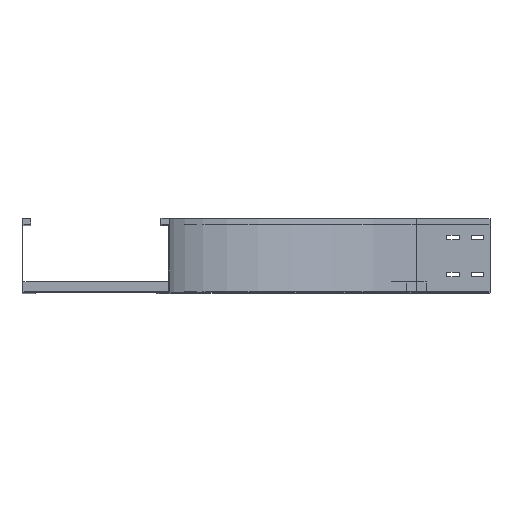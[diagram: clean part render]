
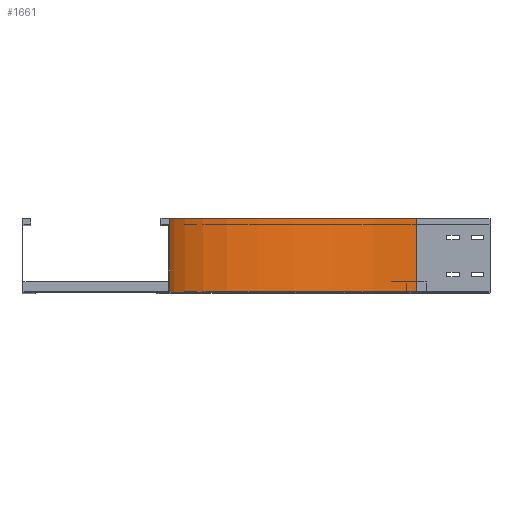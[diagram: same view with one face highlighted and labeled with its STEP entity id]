
A CAD part, top view. The second image highlights one B-rep face of the part: STEP entity #1661.
In plain terms, the highlighted cylindrical face has radius 500 mm (diameter 1000 mm), a partial arc.
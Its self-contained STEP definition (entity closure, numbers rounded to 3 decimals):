
#48 = CARTESIAN_POINT ( 'NONE',  ( 500., 0., -650. ) ) ;
#162 = CARTESIAN_POINT ( 'NONE',  ( 500., 0., -150. ) ) ;
#193 = DIRECTION ( 'NONE',  ( 0., -1., 0. ) ) ;
#215 = DIRECTION ( 'NONE',  ( 0., 0., -1. ) ) ;
#427 = EDGE_LOOP ( 'NONE', ( #590, #3980, #3678, #2439 ) ) ;
#453 = CYLINDRICAL_SURFACE ( 'NONE', #1134, 500. ) ;
#570 = CARTESIAN_POINT ( 'NONE',  ( 0., 150., -150. ) ) ;
#590 = ORIENTED_EDGE ( 'NONE', *, *, #3795, .F. ) ;
#661 = AXIS2_PLACEMENT_3D ( 'NONE', #3503, #193, #3481 ) ;
#830 = CARTESIAN_POINT ( 'NONE',  ( 500., 0., -650. ) ) ;
#1134 = AXIS2_PLACEMENT_3D ( 'NONE', #162, #1163, #215 ) ;
#1152 = AXIS2_PLACEMENT_3D ( 'NONE', #1220, #3514, #1952 ) ;
#1163 = DIRECTION ( 'NONE',  ( 0., -1., 0. ) ) ;
#1220 = CARTESIAN_POINT ( 'NONE',  ( 500., 150., -150. ) ) ;
#1337 = EDGE_CURVE ( 'NONE', #1355, #3801, #4259, .T. ) ;
#1355 = VERTEX_POINT ( 'NONE', #3253 ) ;
#1661 = ADVANCED_FACE ( 'NONE', ( #4074 ), #453, .F. ) ;
#1864 = CARTESIAN_POINT ( 'NONE',  ( 500., 150., -650. ) ) ;
#1952 = DIRECTION ( 'NONE',  ( -1., 0., 0. ) ) ;
#2432 = VECTOR ( 'NONE', #2864, 1000. ) ;
#2439 = ORIENTED_EDGE ( 'NONE', *, *, #3905, .T. ) ;
#2446 = VECTOR ( 'NONE', #2691, 1000. ) ;
#2607 = CARTESIAN_POINT ( 'NONE',  ( 0., 0., -150. ) ) ;
#2629 = LINE ( 'NONE', #48, #2446 ) ;
#2691 = DIRECTION ( 'NONE',  ( 0., 1., 0. ) ) ;
#2846 = EDGE_CURVE ( 'NONE', #1355, #3645, #3823, .T. ) ;
#2864 = DIRECTION ( 'NONE',  ( 0., 1., 0. ) ) ;
#3253 = CARTESIAN_POINT ( 'NONE',  ( 0., 0., -150. ) ) ;
#3481 = DIRECTION ( 'NONE',  ( -1., 0., 0. ) ) ;
#3503 = CARTESIAN_POINT ( 'NONE',  ( 500., 0., -150. ) ) ;
#3514 = DIRECTION ( 'NONE',  ( 0., -1., 0. ) ) ;
#3645 = VERTEX_POINT ( 'NONE', #830 ) ;
#3678 = ORIENTED_EDGE ( 'NONE', *, *, #2846, .T. ) ;
#3694 = CIRCLE ( 'NONE', #1152, 500. ) ;
#3795 = EDGE_CURVE ( 'NONE', #3801, #4072, #3694, .T. ) ;
#3801 = VERTEX_POINT ( 'NONE', #570 ) ;
#3823 = CIRCLE ( 'NONE', #661, 500. ) ;
#3905 = EDGE_CURVE ( 'NONE', #3645, #4072, #2629, .T. ) ;
#3980 = ORIENTED_EDGE ( 'NONE', *, *, #1337, .F. ) ;
#4072 = VERTEX_POINT ( 'NONE', #1864 ) ;
#4074 = FACE_OUTER_BOUND ( 'NONE', #427, .T. ) ;
#4259 = LINE ( 'NONE', #2607, #2432 ) ;
